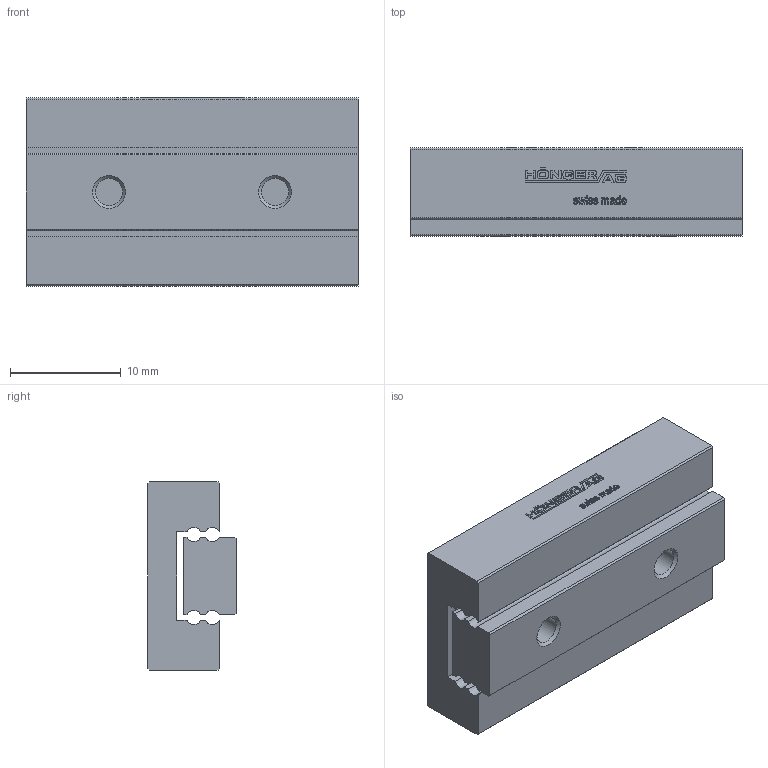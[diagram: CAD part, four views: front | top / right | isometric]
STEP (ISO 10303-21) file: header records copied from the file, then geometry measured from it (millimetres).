
FILE_DESCRIPTION(/* description */ ('STEP AP214'),/* implementation_level */ '2;1');
FILE_NAME(/* name */ 'MSK 7-30.22(0)',/* time_stamp */ '2025-04-16T16:55:11+02:00',/* author */ ('License CC BY-ND 4.0'),/* organization */ ('CADENAS'),/* preprocessor_version */ 'ST-DEVELOPER v19.3',/* originating_system */ 'PARTsolutions',/* authorisation */ ' ');
FILE_SCHEMA (('AUTOMOTIVE_DESIGN {1 0 10303 214 3 1 1}'));
Length unit declared in the file: millimetre
Products named in the file (3): MSK 7-30.22(0); MSK 7-30.22_1; MSK 7-30.22_2
Assembly tree (2 placements, depth 2):
  MSK 7-30.22(0)
    MSK 7-30.22_1
    MSK 7-30.22_2
Bounding box: 30 x 8 x 17 mm (x, y, z)
Volume: 3162.2 mm3; surface area: 2835.9 mm2
Topology: 2 solids, 2 shells, 523 faces, 1452 edges, 966 vertices
Faces by surface type: cylinder 308, plane 209, cone 6
Full cylindrical faces by diameter (mm): 1.567 x4, 2.459 x2, 4.5 x2
Entity records: 16993 total; most frequent: DIRECTION 3112, CARTESIAN_POINT 2930, ORIENTED_EDGE 2876, EDGE_CURVE 1438, AXIS2_PLACEMENT_3D 1148, VERTEX_POINT 966, LINE 816, VECTOR 816
